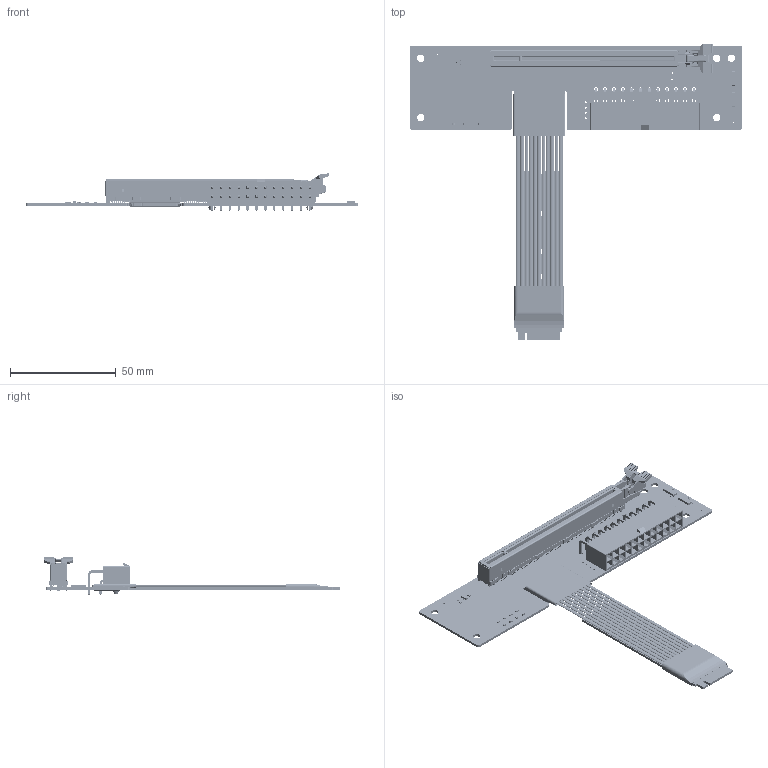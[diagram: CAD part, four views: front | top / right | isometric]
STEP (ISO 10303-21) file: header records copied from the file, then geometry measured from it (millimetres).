
FILE_DESCRIPTION(('Open CASCADE Model'),'2;1');
FILE_NAME('Open CASCADE Shape Model','2025-09-02T11:00:32',('Author'),( 'Open CASCADE'),'Open CASCADE STEP processor 7.5','Open CASCADE 7.5' ,'Unknown');
FILE_SCHEMA(('AUTOMOTIVE_DESIGN { 1 0 10303 214 1 1 1 1 }'));
Length unit declared in the file: millimetre
Products named in the file (265): PCB; Board; Open CASCADE STEP translator 7.5 3.1.1; SW2; MiniSide Switch; CN3; APC50023-P005CC_3D; SW1; CN4; 039300240; Q1; SOT-23; R1; 0603_RES; Capsule; Encapsulation; TopCover; R6; R5; R4; R3; R2; D4; LED AP1608; D3; D2; D1; C1; C0603_060; Free-Models; R4S HST 20220711_RGB4408131; K44SH 20P ֱ¿잲0250423; K44SH 24P ֱ¿잲0250423; K49SA-BKɈ̵¹ڠ20250710_RGB4408131
Assembly tree (274 placements, depth 4):
  PCB
    Board
      Open CASCADE STEP translator 7.5 3.1.1
    SW2
      MiniSide Switch
    CN3
      APC50023-P005CC_3D
    SW1
      MiniSide Switch
    CN4
      039300240
    Q1
      SOT-23
    R1
      0603_RES
        Capsule
        Encapsulation  x2
        TopCover
    R6
      0603_RES
        Capsule
        Encapsulation  x2
        TopCover
    R5
      0603_RES
        Capsule
        Encapsulation  x2
        TopCover
    R4
      0603_RES
        Capsule
        Encapsulation  x2
        TopCover
    R3
      0603_RES
        Capsule
        Encapsulation  x2
        TopCover
    R2
      0603_RES
        Capsule
        Encapsulation  x2
        TopCover
    D4
      LED AP1608
    D3
      LED AP1608
    D2
      LED AP1608
    D1
      LED AP1608
    C1
      C0603_060
      C0603_060
      C0603_060
    Free-Models
      R4S HST 20220711_RGB4408131
      K44SH 20P ֱ¿잲0250423
      K44SH 20P ֱ¿잲0250423
      K44SH 20P ֱ¿잲0250423
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Bounding box: 157.01 x 140.07 x 17.96 mm (x, y, z)
Volume: 20589.1 mm3; surface area: 58004 mm2
Topology: 288 solids, 288 shells, 15516 faces, 39328 edges, 24138 vertices
Faces by surface type: plane 11154, cylinder 2943, bspline 1343, cone 25, extrusion 22, torus 17, sphere 12
Full cylindrical faces by diameter (mm): 0.2 x132, 0.254 x176, 0.63 x44, 0.762 x4, 0.8 x4, 0.9 x4, 1.8 x24, 3 x2, 3.3 x3, 3.5 x5
Entity records: 461957 total; most frequent: CARTESIAN_POINT 117777, ORIENTED_EDGE 68318, DIRECTION 64646, EDGE_CURVE 34159, VECTOR 26932, LINE 26910, VERTEX_POINT 21144, AXIS2_PLACEMENT_3D 18857
